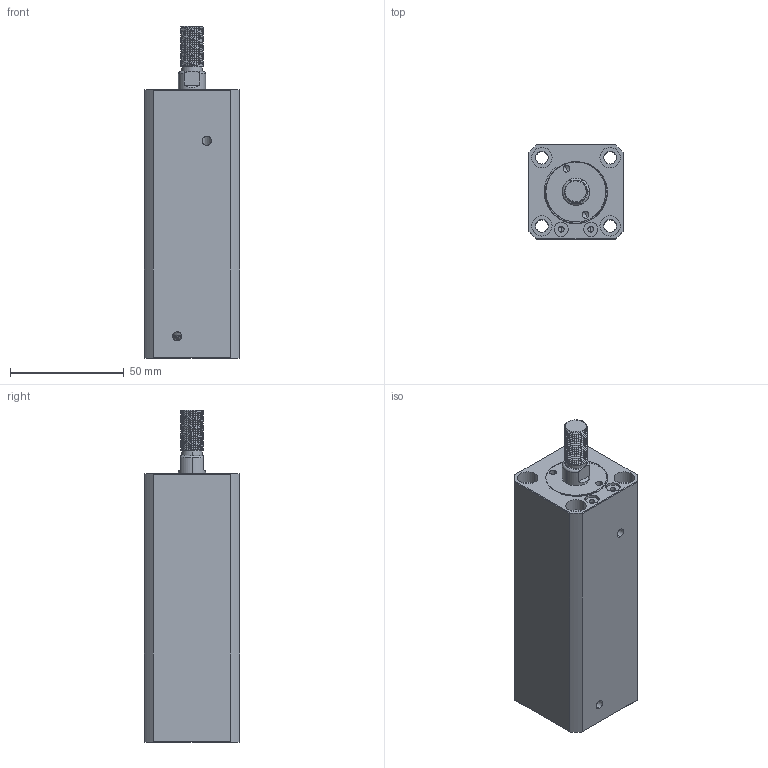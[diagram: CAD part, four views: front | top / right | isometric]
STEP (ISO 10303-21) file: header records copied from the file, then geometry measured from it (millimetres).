
FILE_DESCRIPTION (( 'STEP AP214' ), '1' );
FILE_NAME ('chtb-sdma20x75w_asm.STEP', '2018-05-18T04:43:21', ( 'Windows' ), ( 'Microsoft' ), 'SwSTEP 2.0', 'SolidWorks 2015', '' );
FILE_SCHEMA (( 'AUTOMOTIVE_DESIGN' ));
Length unit declared in the file: millimetre
Products named in the file (4): QG_3; CHTB-SDMA20X75WHSG; CHTB-SDMA20X75NBT; chtb-sdma20x75w_asm
Assembly tree (3 placements, depth 2):
  chtb-sdma20x75w_asm
    CHTB-SDMA20X75NBT
    CHTB-SDMA20X75WHSG
    QG_3
Bounding box: 42 x 42 x 146 mm (x, y, z)
Volume: 176183.4 mm3; surface area: 50467.4 mm2
Topology: 3 solids, 3 shells, 247 faces, 671 edges, 446 vertices
Faces by surface type: cylinder 144, plane 48, torus 25, bspline 23, cone 7
Entity records: 14895 total; most frequent: CARTESIAN_POINT 9018, ORIENTED_EDGE 1334, DIRECTION 1075, EDGE_CURVE 667, VERTEX_POINT 446, AXIS2_PLACEMENT_3D 441, EDGE_LOOP 285, FACE_OUTER_BOUND 247
